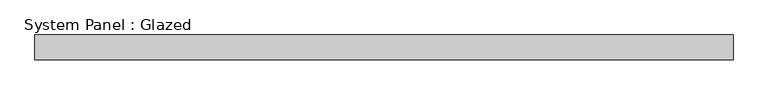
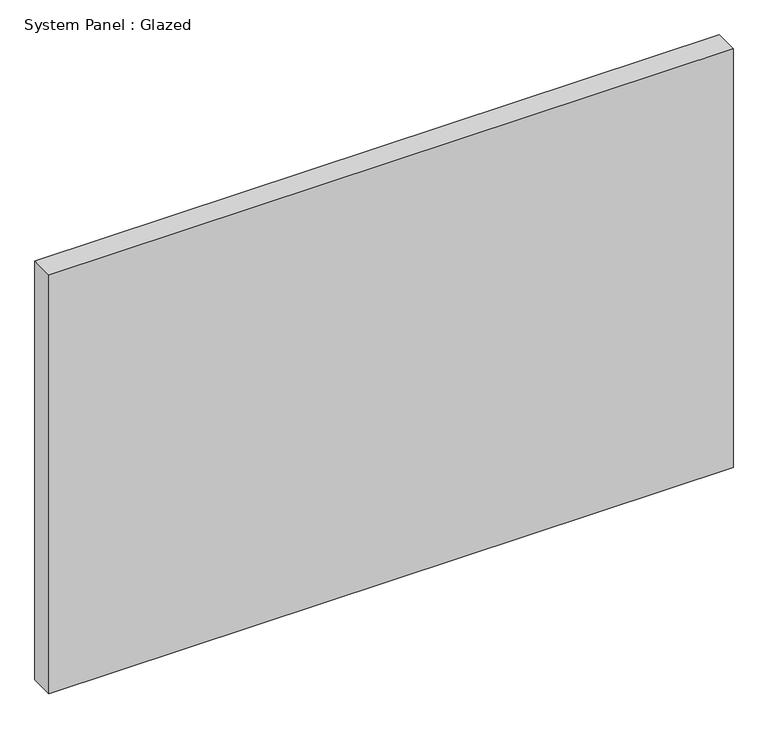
"""IFC4 building model written with IfcOpenShell, lengths in millimetres: plate geometry, System Panel : Glazed."""

from ifc_helpers import new_model, si_unit, origin, origin_with_axes, place, context, project, spatial, polyline, outline, extrude, source, transform, mapped, element, save


def system_panel_glazed_71c66313(model_context):
    return source(origin(), model_context, "Body", "SweptSolid", [
        extrude(outline(polyline([(1412.8256996, -150.0), (-1412.8256996, -150.0), (-1412.8256996, -50.0), (1412.8256996, -50.0), (1412.8256996, -150.0)])), origin_with_axes(), (0.0, 0.0, 1.0), 1828.8),
    ])


if __name__ == "__main__":
    model = new_model("IFC4")
    model_context = context("Model", 3, world=origin())
    ifc_project = project(units=[si_unit("LENGTHUNIT", "METRE", prefix="MILLI")], contexts=[model_context])
    site = spatial("IfcSite", under=ifc_project)
    building = spatial("IfcBuilding", under=site)
    placement = place(None, origin())
    system_panel_glazed_shape = system_panel_glazed_71c66313(model_context)
    element("IfcPlate", 1, ObjectType="System Panel : Glazed", at=placement, inside=building, context=model_context, shape_type="MappedRepresentation", body=[
        mapped(system_panel_glazed_shape, transform((0.0, 0.0, 0.0), x_axis=(1.0, 0.0, 0.0), y_axis=(0.0, 1.0, 0.0), z_axis=(0.0, 0.0, 1.0))),
    ])
    save(model, "model.ifc")
